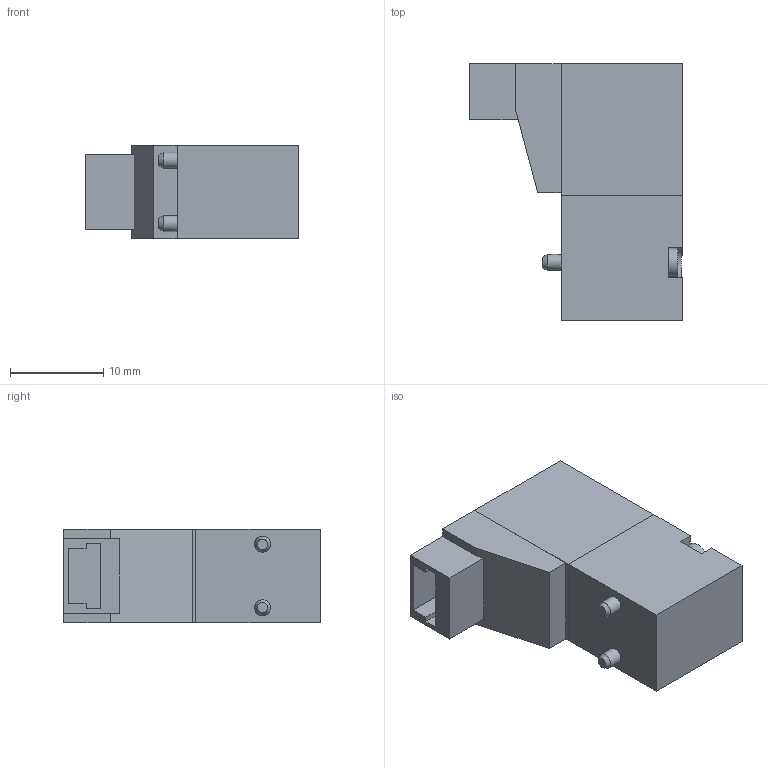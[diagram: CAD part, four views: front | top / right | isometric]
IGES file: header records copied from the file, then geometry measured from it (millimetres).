
Global section: file name: P3##.4R; native system: Autodesk Inventor 2014; preprocessor: unknown; author: A. Manieri; organization: Pneumax S.p.A.; date: 20160902.102252; units: millimetre
Bounding box: 22.8 x 27.5 x 10 mm (x, y, z)
Volume: 4250 mm3; surface area: 2029.4 mm2
Topology: 1 solids, 1 shells, 84 faces, 213 edges, 140 vertices
Faces by surface type: bspline 84
